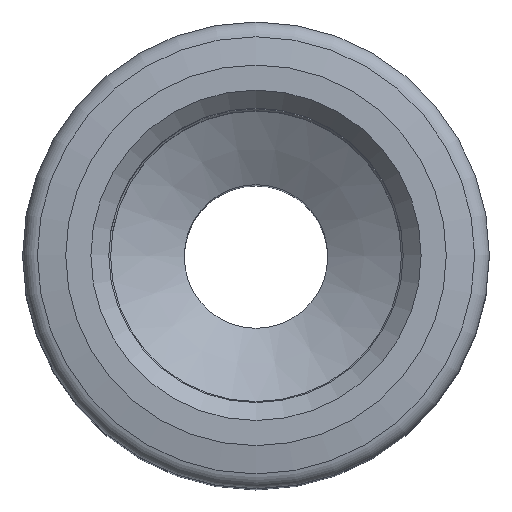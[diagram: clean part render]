
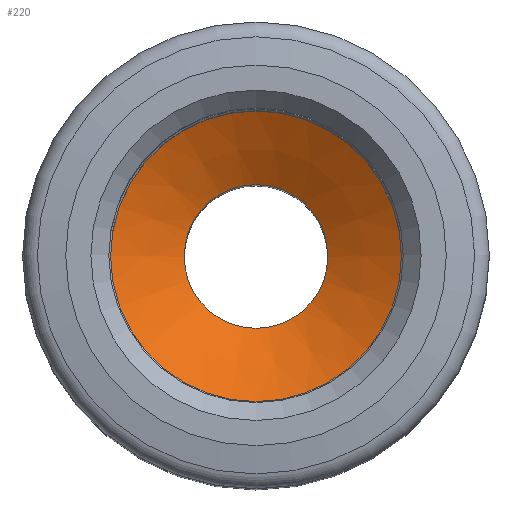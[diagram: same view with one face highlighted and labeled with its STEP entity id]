
A CAD part, top view. The second image highlights one B-rep face of the part: STEP entity #220.
In plain terms, the highlighted conical face has half-angle 60 degrees and reference radius 4.05 mm.
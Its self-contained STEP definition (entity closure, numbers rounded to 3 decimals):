
#220=ADVANCED_FACE('', (#230,#240), #250, .F.);
#1680=AXIS2_PLACEMENT_3D('Ax2Pl3d', #1690, #1700, #1710);
#1760=AXIS2_PLACEMENT_3D('Ax2Pl3d', #1770, #1780, #1790);
#1800=AXIS2_PLACEMENT_3D('Ax2Pl3d', #1810, #1820, #1830);
#1690=CARTESIAN_POINT('HicPkt', (12.19,5.833,
22.654));
#4170=CARTESIAN_POINT('', (12.19,7.833,22.654));
#1770=CARTESIAN_POINT('HicPkt', (12.19,5.833,
23.838));
#1810=CARTESIAN_POINT('HicPkt', (12.19,5.833,
23.838));
#4190=CARTESIAN_POINT('', (12.19,1.783,23.838));
#4490=CIRCLE('Circle', #1680, 2.);
#4510=CIRCLE('Circle', #1800, 4.05);
#250=CONICAL_SURFACE('Kegel', #1760, 4.05, 1.047)
;
#1700=DIRECTION('Axis', (0.,0.,-1.));
#1710=DIRECTION('RefDirection', (-1.,-0.,0.));
#1780=DIRECTION('Axis', (0.,0.,1.));
#1790=DIRECTION('RefDirection', (1.,0.,-0.));
#1820=DIRECTION('Axis', (0.,0.,1.));
#1830=DIRECTION('RefDirection', (1.,0.,-0.));
#5900=EDGE_CURVE('', #5910, #5910, #4490, .T.);
#5940=EDGE_CURVE('', #5950, #5950, #4510, .T.);
#6600=EDGE_LOOP('Edge_loop', (#6610));
#6620=EDGE_LOOP('Edge_loop', (#6630));
#240=FACE_BOUND('', #6620, .T.);
#230=FACE_OUTER_BOUND('Face_outer_bound', #6600, .T.);
#6610=ORIENTED_EDGE('', *, *, #5900, .T.);
#6630=ORIENTED_EDGE('', *, *, #5940, .T.);
#5910=VERTEX_POINT('', #4170);
#5950=VERTEX_POINT('', #4190);
